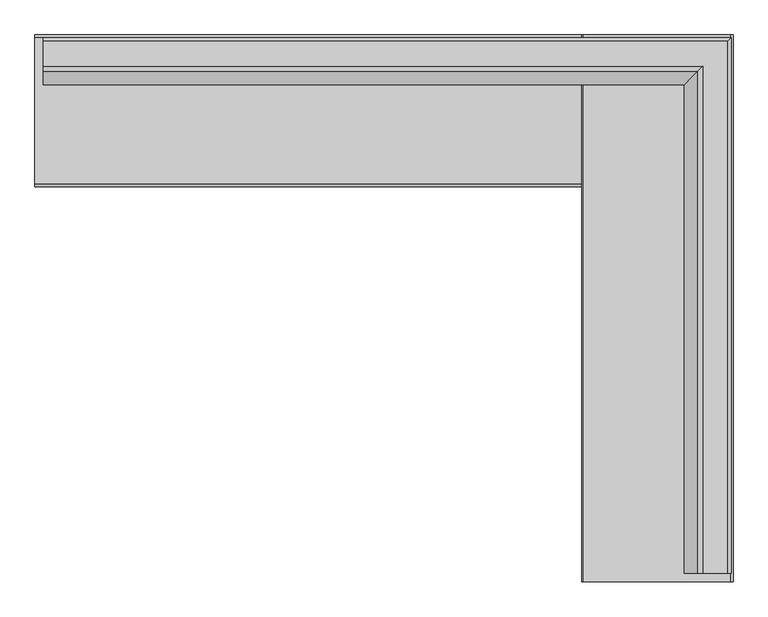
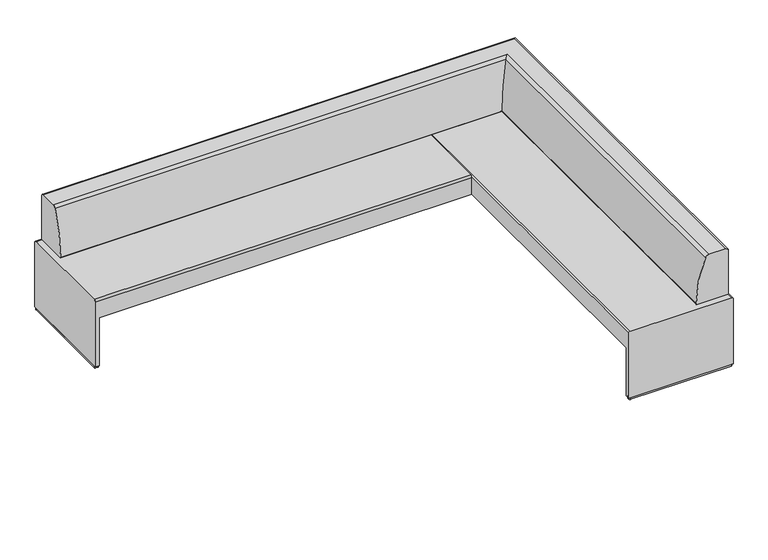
"""IFC4 building model written with IfcOpenShell, lengths in millimetres: furniture geometry, Steelcase Coalesse - Together - Seating - Bench - Right Corner : 1.5in Back Offset - 96.5D x 123.25W."""

from ifc_helpers import new_model, si_unit, point, frame, frame_2d, origin, origin_with_axes, place, context, project, spatial, polyline, circle_curve, ellipse_curve, trimmed, segment, composite_curve, outline, extrude, source, transform, mapped, element, save
from ifc_brep_helpers import plane_surface, cylinder_surface, advanced_brep


def furniture_3574d05f(model_context):
    return source(origin(), model_context, "Body", "SolidModel", [
        advanced_brep(
        [(774.5287475, 2999.7334745, 461.0687949), (764.3687475, 2999.7334745, 471.2287949), (103.5774354, 2999.7334745, 471.2287949), (95.2070699, 2999.7334745, 462.8584293), (95.2070699, 2999.7334745, 12.7976677), (774.5287475, 2999.7334745, 12.7976677), (95.2070699, 5450.8334745, 343.3718099), (95.2070699, 5450.8334745, 462.8584293), (103.5774354, 5450.8334745, 471.2287949), (764.3687475, 5450.8334745, 471.2287949), (774.5287475, 5450.8334745, 461.0687949), (774.5287475, 5450.8334745, 343.3718099), (774.5287475, 3025.7251879, 343.3718099), (432.8174347, 3070.1341192, 343.3718099), (95.2070699, 3025.7251879, 343.3718099), (774.5287475, 3025.7251879, 12.7976677), (95.2070699, 3025.7251879, 12.7976677), (432.8174347, 3070.1341192, 12.7976677)],
        [
            (0, 1, circle_curve(frame((764.3687475, 2999.7334745, 461.0687949), z_axis=(0.0, -1.0, 0.0), x_axis=(-1.0, 0.0, 0.0)), 10.16)),
            (1, 2),
            (2, 3, circle_curve(frame((103.5774354, 2999.7334745, 462.8584293), z_axis=(0.0, -1.0, 0.0), x_axis=(-1.0, 0.0, 0.0)), 8.3703656)),
            (3, 4),
            (4, 5),
            (5, 0),
            (6, 7),
            (7, 8, circle_curve(frame((103.5774354, 5450.8334745, 462.8584293), z_axis=(0.0, 1.0, 0.0), x_axis=(-1.0, 0.0, 0.0)), 8.3703656)),
            (8, 9),
            (9, 10, circle_curve(frame((764.3687475, 5450.8334745, 461.0687949), z_axis=(0.0, 1.0, 0.0), x_axis=(-1.0, 0.0, 0.0)), 10.16)),
            (10, 11),
            (11, 6),
            (11, 12),
            (12, 13),
            (13, 14),
            (14, 6),
            (5, 15),
            (15, 12),
            (10, 0),
            (9, 1),
            (8, 2),
            (7, 3),
            (14, 16),
            (16, 4),
            (17, 15),
            (16, 17),
            (13, 17),
        ],
        [
            plane_surface(frame((733.0421326, 2999.7334745, 343.3718099), z_axis=(0.0, -1.0, 0.0), x_axis=(1.0, 0.0, 0.0))),
            plane_surface(frame((733.0421326, 5450.8334745, 343.3718099), z_axis=(0.0, 1.0, 0.0), x_axis=(-1.0, 0.0, 0.0))),
            plane_surface(frame((95.2070699, 2999.7334745, 343.3718099), z_axis=(0.0, 0.0, -1.0), x_axis=(0.0, 1.0, 0.0))),
            plane_surface(frame((774.5287475, 2999.7334745, 343.3718099), z_axis=(1.0, 0.0, 0.0), x_axis=(0.0, 1.0, 0.0))),
            cylinder_surface(frame((764.3687475, 5450.8334745, 461.0687949), z_axis=(0.0, -1.0, 0.0), x_axis=(-1.0, 0.0, 0.0)), 10.16),
            plane_surface(frame((764.3687475, 2999.7334745, 471.2287949), z_axis=(0.0, 0.0, 1.0), x_axis=(0.0, 1.0, 0.0))),
            cylinder_surface(frame((103.5774354, 5450.8334745, 462.8584293), z_axis=(0.0, -1.0, 0.0), x_axis=(-1.0, 0.0, 0.0)), 8.3703656),
            plane_surface(frame((95.2070699, 2999.7334745, 462.8584293), z_axis=(-1.0, 0.0, 0.0), x_axis=(0.0, 1.0, 0.0))),
            plane_surface(frame((432.8174347, 3070.1341192, 12.7976677), z_axis=(0.0, 0.0, -1.0000000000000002), x_axis=(0.9914594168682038, 0.13041558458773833, 0.0))),
            plane_surface(frame((432.8174347, 3070.1341192, 343.3718099), z_axis=(-0.13041558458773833, 0.9914594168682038, 0.0), x_axis=(0.0, 0.0, -1.0))),
            plane_surface(frame((774.5287475, 3025.7251879, 343.3718099), z_axis=(0.12887659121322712, 0.991660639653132, 0.0), x_axis=(0.0, 0.0, -1.0))),
        ],
        [
            (0, [[1, 2, 3, 4, 5, 6]]),
            (1, [[7, 8, 9, 10, 11, 12]]),
            (2, [[-12, 13, 14, 15, 16]]),
            (3, [[-6, 17, 18, -13, -11, 19]]),
            (4, [[-1, -19, -10, 20]]),
            (5, [[-2, -20, -9, 21]]),
            (6, [[-3, -21, -8, 22]]),
            (7, [[-4, -22, -7, -16, 23, 24]]),
            (8, [[25, -17, -5, -24, 26]]),
            (9, [[-26, -23, -15, 27]]),
            (10, [[-25, -27, -14, -18]]),
        ],
    ),
        advanced_brep(
        [(-2356.0212525, 4783.2670813, 471.2287949), (-2356.0212525, 5438.3536785, 471.2287949), (-2356.0212525, 5451.0536785, 458.5287949), (-2356.0212525, 5451.0536785, 12.7976677), (-2356.0212525, 4770.5670813, 12.7976677), (-2356.0212525, 4770.5670813, 458.5287949), (95.2070699, 4783.2670813, 471.2287949), (95.2070699, 4770.5670813, 458.5287949), (95.2070699, 4770.5670813, 343.3718099), (95.2070699, 5451.0536785, 343.3718099), (95.2070699, 5451.0536785, 458.5287949), (95.2070699, 5438.3536785, 471.2287949), (-2330.1515245, 5451.0536785, 343.3718099), (-2330.1525858, 5451.0536785, 12.7976677), (-2329.8455542, 4770.5670813, 343.3718099), (-2285.5129721, 5108.4198031, 343.3718099), (-2329.8444726, 4770.5670813, 12.7976677), (-2285.5129721, 5108.4198031, 12.7976677)],
        [
            (0, 1),
            (1, 2, circle_curve(frame((-2356.0212525, 5438.3536785, 458.5287949), z_axis=(-1.0, 0.0, 0.0), x_axis=(0.0, 1.0, 0.0)), 12.7)),
            (2, 3),
            (3, 4),
            (4, 5),
            (5, 0, circle_curve(frame((-2356.0212525, 4783.2670813, 458.5287949), z_axis=(-1.0, 0.0, 0.0), x_axis=(0.0, 1.0, 0.0)), 12.7)),
            (6, 7, circle_curve(frame((95.2070699, 4783.2670813, 458.5287949), z_axis=(1.0, 0.0, 0.0), x_axis=(0.0, 1.0, 0.0)), 12.7)),
            (7, 8),
            (8, 9),
            (9, 10),
            (10, 11, circle_curve(frame((95.2070699, 5438.3536785, 458.5287949), z_axis=(1.0, 0.0, 0.0), x_axis=(0.0, 1.0, 0.0)), 12.7)),
            (11, 6),
            (0, 6),
            (11, 1),
            (10, 2),
            (9, 12),
            (12, 13),
            (13, 3),
            (8, 14),
            (14, 15),
            (15, 12),
            (4, 16),
            (16, 14),
            (7, 5),
            (17, 16),
            (13, 17),
            (15, 17),
        ],
        [
            plane_surface(frame((-2356.0212525, 5450.8334745, 471.2287949), z_axis=(-1.0, 0.0, 0.0), x_axis=(0.0, 1.0, 0.0))),
            plane_surface(frame((95.2070699, 5450.8334745, 471.2287949), z_axis=(1.0, 0.0, 0.0), x_axis=(0.0, -1.0, 0.0))),
            plane_surface(frame((-2356.0212525, 4783.2670813, 471.2287949), z_axis=(0.0, 0.0, 1.0), x_axis=(1.0, 0.0, 0.0))),
            cylinder_surface(frame((95.2070699, 5438.3536785, 458.5287949), z_axis=(-1.0, 0.0, 0.0), x_axis=(0.0, 1.0, 0.0)), 12.7),
            plane_surface(frame((-2356.0212525, 5451.0536785, 458.5287949), z_axis=(0.0, 1.0, 0.0), x_axis=(1.0, 0.0, 0.0))),
            plane_surface(frame((-2356.0212525, 5451.0536785, 343.3718099), z_axis=(0.0, 0.0, -1.0), x_axis=(1.0, 0.0, 0.0))),
            plane_surface(frame((-2356.0212525, 4770.5670813, 343.3718099), z_axis=(0.0, -1.0, 0.0), x_axis=(1.0, 0.0, 0.0))),
            cylinder_surface(frame((95.2070699, 4783.2670813, 458.5287949), z_axis=(-1.0, 0.0, 0.0), x_axis=(0.0, 1.0, 0.0)), 12.7),
            plane_surface(frame((-2330.1525858, 5451.0618248, 12.7976677), z_axis=(0.0, 0.0, -1.0), x_axis=(0.12918886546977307, -0.9916200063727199, 0.0))),
            plane_surface(frame((-2285.5129721, 5108.4198031, 343.3718099), z_axis=(0.9916200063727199, 0.12918886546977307, 0.0), x_axis=(0.0, 0.0, -1.0))),
            plane_surface(frame((-2329.8444726, 4770.5753245, 343.3718099), z_axis=(0.9915004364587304, -0.1301033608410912, 0.0), x_axis=(0.0, 0.0, -1.0))),
        ],
        [
            (0, [[1, 2, 3, 4, 5, 6]]),
            (1, [[7, 8, 9, 10, 11, 12]]),
            (2, [[-1, 13, -12, 14]]),
            (3, [[-2, -14, -11, 15]]),
            (4, [[-3, -15, -10, 16, 17, 18]]),
            (5, [[-9, 19, 20, 21, -16]]),
            (6, [[-5, 22, 23, -19, -8, 24]]),
            (7, [[-6, -24, -7, -13]]),
            (8, [[25, -22, -4, -18, 26]]),
            (9, [[-26, -17, -21, 27]]),
            (10, [[-25, -27, -20, -23]]),
        ],
    ),
        extrude(outline(composite_curve([segment(polyline([(-2285.9689643, 5113.2843855), (-2330.9693515, 4782.1665875)]), True, "CONTINUOUS"), segment(trimmed(circle_curve(frame_2d((-2337.2615092, 4783.0217198)), 6.35), [point((-2330.9693515, 4782.1665875))], [point((-2337.2666959, 4776.6717219))], False, "CARTESIAN"), True, "CONTINUOUS"), segment(polyline([(-2337.2666959, 4776.6717219), (-2349.7239607, 4776.6818969)]), True, "CONTINUOUS"), segment(trimmed(circle_curve(frame_2d((-2349.718774, 4783.0318948)), 6.35), [point((-2349.7239607, 4776.6818969))], [point((-2356.0687719, 4783.0370815))], False, "CARTESIAN"), True, "CONTINUOUS"), segment(polyline([(-2356.0687719, 4783.0370815), (-2355.5332557, 5438.6681616)]), True, "CONTINUOUS"), segment(trimmed(circle_curve(frame_2d((-2349.1832578, 5438.6629749)), 6.35), [point((-2355.5332557, 5438.6681616))], [point((-2349.1780712, 5445.0129728))], False, "CARTESIAN"), True, "CONTINUOUS"), segment(polyline([(-2349.1780712, 5445.0129728), (-2336.6550538, 5445.0027441)]), True, "CONTINUOUS"), segment(trimmed(circle_curve(frame_2d((-2336.6607966, 5437.9717942)), 7.0309522), [point((-2336.6550538, 5445.0027441))], [point((-2329.6923843, 5438.9074858))], False, "CARTESIAN"), True, "CONTINUOUS"), segment(polyline([(-2329.6923843, 5438.9074858), (-2285.9689643, 5113.2843855)]), True, "CONTINUOUS")], self_intersect=False)), origin_with_axes(), (0.0, 0.0, 1.0), 12.7976677),
        extrude(outline(composite_curve([segment(polyline([(437.4499039, 5381.2236386), (106.2954602, 5425.9535555)]), True, "CONTINUOUS"), segment(trimmed(circle_curve(frame_2d((107.1454529, 5432.2464096)), 6.35), [point((106.2954602, 5425.9535555))], [point((100.7954529, 5432.2464096))], False, "CARTESIAN"), True, "CONTINUOUS"), segment(polyline([(100.7954529, 5432.2464096), (100.7954529, 5444.7036785)]), True, "CONTINUOUS"), segment(trimmed(circle_curve(frame_2d((107.1454529, 5444.7036785)), 6.35), [point((100.7954529, 5444.7036785))], [point((107.1454529, 5451.0536785))], False, "CARTESIAN"), True, "CONTINUOUS"), segment(polyline([(107.1454529, 5451.0536785), (762.7767517, 5451.0536785)]), True, "CONTINUOUS"), segment(trimmed(circle_curve(frame_2d((762.7767517, 5444.7036785)), 6.35), [point((762.7767517, 5451.0536785))], [point((769.1267517, 5444.7036785))], False, "CARTESIAN"), True, "CONTINUOUS"), segment(polyline([(769.1267517, 5444.7036785), (769.1267517, 5432.180657)]), True, "CONTINUOUS"), segment(trimmed(circle_curve(frame_2d((762.0957995, 5432.180657)), 7.0309522), [point((769.1267517, 5432.180657))], [point((763.0371826, 5425.2130112))], False, "CARTESIAN"), True, "CONTINUOUS"), segment(polyline([(763.0371826, 5425.2130112), (437.4499039, 5381.2236386)]), True, "CONTINUOUS")], self_intersect=False)), origin_with_axes(), (0.0, 0.0, 1.0), 12.7976677),
        extrude(outline(composite_curve([segment(polyline([(437.4499039, 3070.4466001), (763.0371826, 3026.4572274)]), True, "CONTINUOUS"), segment(trimmed(circle_curve(frame_2d((762.0957995, 3019.4895817)), 7.0309522), [point((763.0371826, 3026.4572274))], [point((769.1267517, 3019.4895817))], False, "CARTESIAN"), True, "CONTINUOUS"), segment(polyline([(769.1267517, 3019.4895817), (769.1267517, 3006.9665601)]), True, "CONTINUOUS"), segment(trimmed(circle_curve(frame_2d((762.7767517, 3006.9665601)), 6.35), [point((769.1267517, 3006.9665601))], [point((762.7767517, 3000.6165601))], False, "CARTESIAN"), True, "CONTINUOUS"), segment(polyline([(762.7767517, 3000.6165601), (107.1454529, 3000.6165601)]), True, "CONTINUOUS"), segment(trimmed(circle_curve(frame_2d((107.1454529, 3006.9665601)), 6.35), [point((107.1454529, 3000.6165601))], [point((100.7954529, 3006.9665601))], False, "CARTESIAN"), True, "CONTINUOUS"), segment(polyline([(100.7954529, 3006.9665601), (100.7954529, 3019.4238291)]), True, "CONTINUOUS"), segment(trimmed(circle_curve(frame_2d((107.1454529, 3019.4238291)), 6.35), [point((100.7954529, 3019.4238291))], [point((106.2954602, 3025.7166831))], False, "CARTESIAN"), True, "CONTINUOUS"), segment(polyline([(106.2954602, 3025.7166831), (437.4499039, 3070.4466001)]), True, "CONTINUOUS")], self_intersect=False)), origin_with_axes(), (0.0, 0.0, 1.0), 12.7976677),
        extrude(outline(polyline([(432.8174347, 5380.6530339), (95.2070699, 5425.0619651), (95.2070699, 5451.0536785), (774.6302917, 5451.0536785), (774.6302917, 5425.0751618), (432.8174347, 5380.6530339)])), frame((0.0, 0.0, 12.7976677), z_axis=(0.0, 0.0, 1.0), x_axis=(1.0, 0.0, 0.0)), (0.0, 0.0, 1.0), 330.5741422),
        advanced_brep(
        [(637.9650651, 3037.8334745, 789.6908243), (617.0761552, 3037.8334745, 775.9296487), (556.0897813, 3037.8334745, 477.5628851), (562.4397614, 3037.8334745, 471.2287949), (765.057783, 3037.8334745, 471.2287949), (765.819783, 3037.8334745, 471.9907949), (765.819783, 3037.8334745, 774.0501793), (750.179138, 3037.8334745, 789.6908243), (637.9650651, 5309.7765091, 789.6908243), (617.0761552, 5288.8875992, 775.9296487), (556.0897813, 5227.9012254, 477.5628851), (562.4397614, 5234.2512054, 471.2287949), (-2317.9212525, 5234.2512054, 471.2287949), (-2317.9212525, 5436.869227, 471.2287949), (765.057783, 5436.869227, 471.2287949), (765.819783, 5437.631227, 471.9907949), (765.819783, 5437.631227, 774.0501793), (750.179138, 5421.990582, 789.6908243), (-2317.9212525, 5421.990582, 789.6908243), (-2317.9212525, 5309.7765091, 789.6908243), (-2317.9212525, 5437.631227, 774.0501793), (-2317.9212525, 5437.631227, 471.9907949), (-2317.9212525, 5227.9012254, 477.5628851), (-2317.9212525, 5288.8875992, 775.9296487)],
        [
            (0, 1, circle_curve(frame((637.9650651, 3037.8334745, 766.9559749), z_axis=(0.0, -1.0, 0.0), x_axis=(-1.0, 0.0, 0.0)), 22.7348495)),
            (1, 2, circle_curve(frame((1307.2331615, 3037.8334745, 479.4448666), z_axis=(0.0, -1.0, 0.0), x_axis=(-1.0, 0.0, 0.0)), 751.1457378)),
            (2, 3, circle_curve(frame((562.4397614, 3037.8334745, 477.5787949), z_axis=(0.0, -1.0, 0.0), x_axis=(-1.0, 0.0, 0.0)), 6.35)),
            (3, 4),
            (4, 5, circle_curve(frame((765.057783, 3037.8334745, 471.9907949), z_axis=(0.0, -1.0, 0.0), x_axis=(-1.0, 0.0, 0.0)), 0.762)),
            (5, 6),
            (6, 7, circle_curve(frame((750.179138, 3037.8334745, 774.0501793), z_axis=(0.0, -1.0, 0.0), x_axis=(-1.0, 0.0, 0.0)), 15.6406451)),
            (7, 0),
            (0, 8),
            (8, 9, ellipse_curve(frame((637.9650651, 5309.7765091, 766.9559749), z_axis=(0.7071067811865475, -0.7071067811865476, 0.0), x_axis=(-0.7071067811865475, -0.7071067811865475, 0.0)), 32.1519324, 22.7348495)),
            (9, 1),
            (9, 10, ellipse_curve(frame((1307.2331615, 5979.0446055, 479.4448666), z_axis=(0.7071067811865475, -0.7071067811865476, 0.0), x_axis=(-0.7071067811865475, -0.7071067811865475, 0.0)), 1062.2804897, 751.1457378)),
            (10, 2),
            (10, 11, ellipse_curve(frame((562.4397614, 5234.2512054, 477.5787949), z_axis=(0.7071067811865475, -0.7071067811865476, 0.0), x_axis=(-0.7071067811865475, -0.7071067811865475, 0.0)), 8.9802561, 6.35)),
            (11, 3),
            (11, 12),
            (12, 13),
            (13, 14),
            (14, 4),
            (14, 15, ellipse_curve(frame((765.057783, 5436.869227, 471.9907949), z_axis=(0.7071067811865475, -0.7071067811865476, 0.0), x_axis=(-0.7071067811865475, -0.7071067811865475, 0.0)), 1.0776307, 0.762)),
            (15, 5),
            (15, 16),
            (16, 6),
            (16, 17, ellipse_curve(frame((750.179138, 5421.990582, 774.0501793), z_axis=(0.7071067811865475, -0.7071067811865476, 0.0), x_axis=(-0.7071067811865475, -0.7071067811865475, 0.0)), 22.1192124, 15.6406451)),
            (17, 7),
            (17, 18),
            (18, 19),
            (19, 8),
            (18, 20, circle_curve(frame((-2317.9212525, 5421.990582, 774.0501793), z_axis=(-1.0, 0.0, 0.0), x_axis=(0.0, -1.0, 0.0)), 15.6406451)),
            (20, 21),
            (21, 13, circle_curve(frame((-2317.9212525, 5436.869227, 471.9907949), z_axis=(-1.0, 0.0, 0.0), x_axis=(0.0, -1.0, 0.0)), 0.762)),
            (12, 22, circle_curve(frame((-2317.9212525, 5234.2512054, 477.5787949), z_axis=(-1.0, 0.0, 0.0), x_axis=(0.0, -1.0, 0.0)), 6.35)),
            (22, 23, circle_curve(frame((-2317.9212525, 5979.0446055, 479.4448666), z_axis=(-1.0, 0.0, 0.0), x_axis=(0.0, -1.0, 0.0)), 751.1457378)),
            (23, 19, circle_curve(frame((-2317.9212525, 5309.7765091, 766.9559749), z_axis=(-1.0, 0.0, 0.0), x_axis=(0.0, -1.0, 0.0)), 22.7348495)),
            (23, 9),
            (22, 10),
            (21, 15),
            (20, 16),
        ],
        [
            plane_surface(frame((555.2553454, 3037.8334745, 0.0), z_axis=(0.0, -1.0, 0.0), x_axis=(0.0, 0.0, 1.0))),
            cylinder_surface(frame((637.9650651, 3037.8334745, 766.9559749), z_axis=(0.0, -1.0, 0.0), x_axis=(-1.0, 0.0, 0.0)), 22.7348495),
            cylinder_surface(frame((1307.2331615, 3037.8334745, 479.4448666), z_axis=(0.0, -1.0, 0.0), x_axis=(-1.0, 0.0, 0.0)), 751.1457378),
            cylinder_surface(frame((562.4397614, 3037.8334745, 477.5787949), z_axis=(0.0, -1.0, 0.0), x_axis=(-1.0, 0.0, 0.0)), 6.35),
            plane_surface(frame((562.4397614, 3037.8334745, 471.2287949), z_axis=(0.0, 0.0, -1.0), x_axis=(0.0, 1.0, 0.0))),
            cylinder_surface(frame((765.057783, 3037.8334745, 471.9907949), z_axis=(0.0, -1.0, 0.0), x_axis=(-1.0, 0.0, 0.0)), 0.762),
            plane_surface(frame((765.819783, 3037.8334745, 471.9907949), z_axis=(1.0, 0.0, 0.0), x_axis=(0.0, 1.0, 0.0))),
            cylinder_surface(frame((750.179138, 3037.8334745, 774.0501793), z_axis=(0.0, -1.0, 0.0), x_axis=(-1.0, 0.0, 0.0)), 15.6406451),
            plane_surface(frame((750.179138, 3037.8334745, 789.6908243), z_axis=(0.0, 0.0, 1.0), x_axis=(0.0, 1.0, 0.0))),
            plane_surface(frame((-2317.9212525, 5227.0667894, 0.0), z_axis=(-1.0, 0.0, 0.0), x_axis=(0.0, 0.0, 1.0))),
            cylinder_surface(frame((555.2553454, 5309.7765091, 766.9559749), z_axis=(1.0, 0.0, 0.0), x_axis=(0.0, -1.0, 0.0)), 22.7348495),
            cylinder_surface(frame((555.2553454, 5979.0446055, 479.4448666), z_axis=(1.0, 0.0, 0.0), x_axis=(0.0, -1.0, 0.0)), 751.1457378),
            cylinder_surface(frame((555.2553454, 5234.2512054, 477.5787949), z_axis=(1.0, 0.0, 0.0), x_axis=(0.0, -1.0, 0.0)), 6.35),
            cylinder_surface(frame((555.2553454, 5436.869227, 471.9907949), z_axis=(1.0, 0.0, 0.0), x_axis=(0.0, -1.0, 0.0)), 0.762),
            plane_surface(frame((765.819783, 5437.631227, 471.9907949), z_axis=(0.0, 1.0, 0.0), x_axis=(-1.0, 0.0, 0.0))),
            cylinder_surface(frame((555.2553454, 5421.990582, 774.0501793), z_axis=(1.0, 0.0, 0.0), x_axis=(0.0, -1.0, 0.0)), 15.6406451),
        ],
        [
            (0, [[1, 2, 3, 4, 5, 6, 7, 8]]),
            (1, [[-1, 9, 10, 11]]),
            (2, [[-2, -11, 12, 13]]),
            (3, [[-3, -13, 14, 15]]),
            (4, [[-4, -15, 16, 17, 18, 19]]),
            (5, [[-5, -19, 20, 21]]),
            (6, [[-6, -21, 22, 23]]),
            (7, [[-7, -23, 24, 25]]),
            (8, [[-8, -25, 26, 27, 28, -9]]),
            (9, [[-27, 29, 30, 31, -17, 32, 33, 34]]),
            (10, [[-10, -28, -34, 35]]),
            (11, [[-12, -35, -33, 36]]),
            (12, [[-14, -36, -32, -16]]),
            (13, [[-20, -18, -31, 37]]),
            (14, [[-22, -37, -30, 38]]),
            (15, [[-24, -38, -29, -26]]),
        ],
    ),
    ])


if __name__ == "__main__":
    model = new_model("IFC4")
    model_context = context("Model", 3, world=origin())
    ifc_project = project(units=[si_unit("LENGTHUNIT", "METRE", prefix="MILLI")], contexts=[model_context])
    site = spatial("IfcSite", under=ifc_project)
    building = spatial("IfcBuilding", under=site)
    placement = place(None, origin())
    furniture_shape = furniture_3574d05f(model_context)
    element("IfcFurniture", 1, ObjectType="Steelcase Coalesse - Together - Seating - Bench - Right Corner : 1.5in Back Offset - 96.5D x 123.25W", at=placement, inside=building, context=model_context, shape_type="MappedRepresentation", body=[
        mapped(furniture_shape, transform((0.0, 0.0, 0.0), x_axis=(1.0, 0.0, 0.0), y_axis=(0.0, 1.0, 0.0), z_axis=(0.0, 0.0, 1.0))),
    ])
    save(model, "model.ifc")
